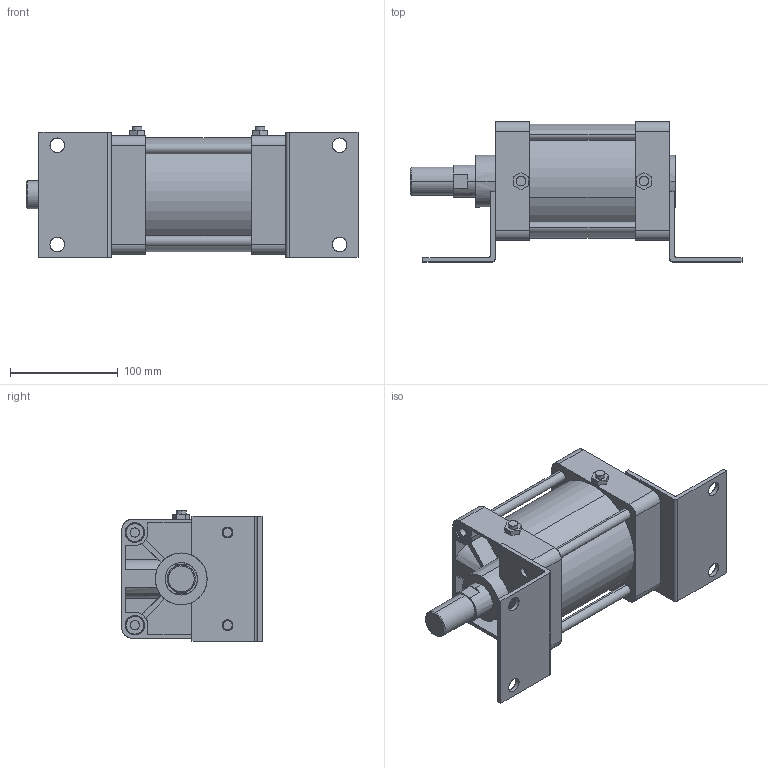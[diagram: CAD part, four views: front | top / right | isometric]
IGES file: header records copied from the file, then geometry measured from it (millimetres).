
Start section: SolidWorks IGES file using analytic representation for surfaces
Global section: file name: C:\Users\Toshiba\Desktop\KG2-100-50-L.IGS; native system: SolidWorks 2014; preprocessor: SolidWorks 2014; author: Toshiba; date: 160401.162321; units: millimetre
Bounding box: 308 x 130 x 121.3 mm (x, y, z)
Surface area: 266214.8 mm2 (no closed solid volume)
Topology: 0 solids, 0 shells, 345 faces, 5521 edges, 5517 vertices
Faces by surface type: bspline 182, revolution 163
